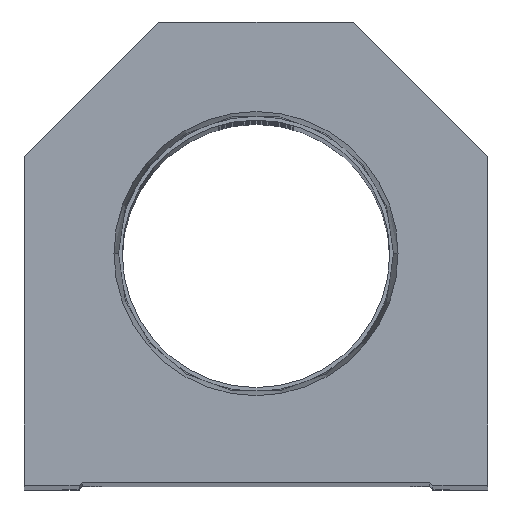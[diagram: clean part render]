
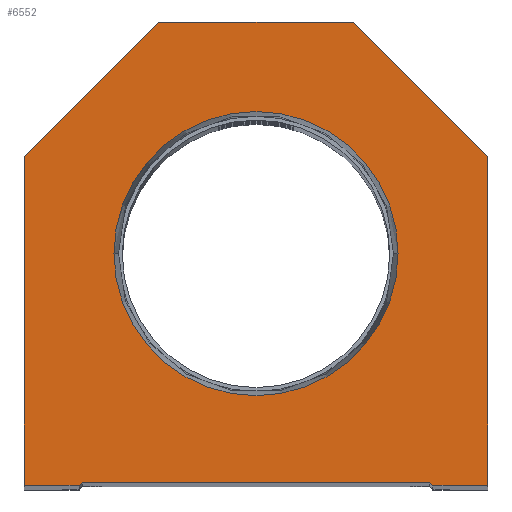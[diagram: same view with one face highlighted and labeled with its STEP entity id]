
A CAD part, top view. The second image highlights one B-rep face of the part: STEP entity #6552.
In plain terms, the highlighted planar face has unit normal (0, 0, 1).
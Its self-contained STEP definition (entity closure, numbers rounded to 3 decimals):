
#79 = EDGE_CURVE ( 'NONE', #3396, #2825, #9376, .T. ) ;
#221 = CARTESIAN_POINT ( 'NONE',  ( 16., 76.2, 0. ) ) ;
#261 = CARTESIAN_POINT ( 'NONE',  ( -28.6, 0.5, 0. ) ) ;
#264 = DIRECTION ( 'NONE',  ( 0., 1., 0. ) ) ;
#312 = DIRECTION ( 'NONE',  ( 0.707, -0.707, 0. ) ) ;
#706 = DIRECTION ( 'NONE',  ( 0., 0., 1. ) ) ;
#980 = VECTOR ( 'NONE', #10000, 1000. ) ;
#993 = LINE ( 'NONE', #3267, #13588 ) ;
#1274 = CARTESIAN_POINT ( 'NONE',  ( 38.1, 0., 0. ) ) ;
#1313 = VECTOR ( 'NONE', #16345, 1000. ) ;
#1403 = VECTOR ( 'NONE', #2230, 1000. ) ;
#1515 = CARTESIAN_POINT ( 'NONE',  ( 14.55, 14.55, 0. ) ) ;
#1667 = VECTOR ( 'NONE', #8024, 1000. ) ;
#1971 = CARTESIAN_POINT ( 'NONE',  ( -23.374, 38.1, 0. ) ) ;
#2105 = ORIENTED_EDGE ( 'NONE', *, *, #8599, .T. ) ;
#2230 = DIRECTION ( 'NONE',  ( 1., 0., 0. ) ) ;
#2252 = CARTESIAN_POINT ( 'NONE',  ( -38.1, 0., 0. ) ) ;
#2315 = VECTOR ( 'NONE', #312, 1000. ) ;
#2321 = CIRCLE ( 'NONE', #8839, 23.374 ) ;
#2506 = CARTESIAN_POINT ( 'NONE',  ( -14.55, 14.55, 0. ) ) ;
#2508 = DIRECTION ( 'NONE',  ( 0., 0., 1. ) ) ;
#2592 = EDGE_CURVE ( 'NONE', #16470, #3396, #15857, .T. ) ;
#2644 = DIRECTION ( 'NONE',  ( -0.707, -0.707, 0. ) ) ;
#2815 = CARTESIAN_POINT ( 'NONE',  ( -38.1, 54.1, 0. ) ) ;
#2825 = VERTEX_POINT ( 'NONE', #12220 ) ;
#2851 = EDGE_CURVE ( 'NONE', #16234, #8787, #15833, .T. ) ;
#2903 = ORIENTED_EDGE ( 'NONE', *, *, #9955, .T. ) ;
#3052 = CARTESIAN_POINT ( 'NONE',  ( 0., 38.1, 0. ) ) ;
#3107 = EDGE_CURVE ( 'NONE', #7142, #16234, #12624, .T. ) ;
#3215 = CARTESIAN_POINT ( 'NONE',  ( 16., 76.2, 0. ) ) ;
#3267 = CARTESIAN_POINT ( 'NONE',  ( 38.1, 54.1, 0. ) ) ;
#3396 = VERTEX_POINT ( 'NONE', #7117 ) ;
#3442 = DIRECTION ( 'NONE',  ( -0.707, 0.707, 0. ) ) ;
#3964 = ORIENTED_EDGE ( 'NONE', *, *, #79, .T. ) ;
#3981 = ORIENTED_EDGE ( 'NONE', *, *, #2592, .T. ) ;
#4141 = EDGE_CURVE ( 'NONE', #4899, #5385, #2321, .T. ) ;
#4550 = AXIS2_PLACEMENT_3D ( 'NONE', #8988, #2508, #11788 ) ;
#4691 = VECTOR ( 'NONE', #11805, 1000. ) ;
#4899 = VERTEX_POINT ( 'NONE', #1971 ) ;
#4960 = CARTESIAN_POINT ( 'NONE',  ( -28.6, 0., 0. ) ) ;
#5129 = ORIENTED_EDGE ( 'NONE', *, *, #6117, .F. ) ;
#5385 = VERTEX_POINT ( 'NONE', #5870 ) ;
#5458 = CARTESIAN_POINT ( 'NONE',  ( 28.6, 0.5, 0. ) ) ;
#5672 = EDGE_CURVE ( 'NONE', #2825, #16817, #11114, .T. ) ;
#5870 = CARTESIAN_POINT ( 'NONE',  ( 23.374, 38.1, 0. ) ) ;
#6117 = EDGE_CURVE ( 'NONE', #5385, #4899, #6981, .T. ) ;
#6401 = ORIENTED_EDGE ( 'NONE', *, *, #3107, .T. ) ;
#6456 = CARTESIAN_POINT ( 'NONE',  ( 28.6, 0., 0. ) ) ;
#6540 = ORIENTED_EDGE ( 'NONE', *, *, #7450, .T. ) ;
#6552 = ADVANCED_FACE ( 'NONE', ( #13637, #16568 ), #11157, .T. ) ;
#6785 = DIRECTION ( 'NONE',  ( -1., 0., 0. ) ) ;
#6981 = CIRCLE ( 'NONE', #4550, 23.374 ) ;
#7117 = CARTESIAN_POINT ( 'NONE',  ( -16., 76.2, 0. ) ) ;
#7142 = VERTEX_POINT ( 'NONE', #261 ) ;
#7268 = VERTEX_POINT ( 'NONE', #11797 ) ;
#7444 = CARTESIAN_POINT ( 'NONE',  ( -28.6, 0.5, 0. ) ) ;
#7450 = EDGE_CURVE ( 'NONE', #7268, #16470, #993, .T. ) ;
#7576 = AXIS2_PLACEMENT_3D ( 'NONE', #11414, #706, #10145 ) ;
#8024 = DIRECTION ( 'NONE',  ( 0.707, 0.707, 0. ) ) ;
#8093 = EDGE_LOOP ( 'NONE', ( #5129, #14618 ) ) ;
#8599 = EDGE_CURVE ( 'NONE', #10005, #7142, #15562, .T. ) ;
#8787 = VERTEX_POINT ( 'NONE', #14684 ) ;
#8839 = AXIS2_PLACEMENT_3D ( 'NONE', #3052, #12081, #9792 ) ;
#8988 = CARTESIAN_POINT ( 'NONE',  ( 0., 38.1, 0. ) ) ;
#9259 = CARTESIAN_POINT ( 'NONE',  ( -29.1, 0., 0. ) ) ;
#9376 = LINE ( 'NONE', #2815, #9576 ) ;
#9576 = VECTOR ( 'NONE', #2644, 1000. ) ;
#9792 = DIRECTION ( 'NONE',  ( 1., 0., 0. ) ) ;
#9955 = EDGE_CURVE ( 'NONE', #16817, #10005, #11262, .T. ) ;
#10000 = DIRECTION ( 'NONE',  ( 1., 0., 0. ) ) ;
#10005 = VERTEX_POINT ( 'NONE', #9259 ) ;
#10145 = DIRECTION ( 'NONE',  ( 1., 0., 0. ) ) ;
#10991 = ORIENTED_EDGE ( 'NONE', *, *, #16229, .T. ) ;
#11114 = LINE ( 'NONE', #16267, #1313 ) ;
#11157 = PLANE ( 'NONE',  #7576 ) ;
#11262 = LINE ( 'NONE', #4960, #1403 ) ;
#11414 = CARTESIAN_POINT ( 'NONE',  ( 0., 0., 0. ) ) ;
#11788 = DIRECTION ( 'NONE',  ( 1., 0., 0. ) ) ;
#11797 = CARTESIAN_POINT ( 'NONE',  ( 38.1, 54.1, 0. ) ) ;
#11805 = DIRECTION ( 'NONE',  ( 1., 0., 0. ) ) ;
#11810 = VECTOR ( 'NONE', #6785, 1000. ) ;
#12081 = DIRECTION ( 'NONE',  ( 0., 0., 1. ) ) ;
#12179 = LINE ( 'NONE', #16225, #15874 ) ;
#12220 = CARTESIAN_POINT ( 'NONE',  ( -38.1, 54.1, 0. ) ) ;
#12624 = LINE ( 'NONE', #7444, #980 ) ;
#13114 = VERTEX_POINT ( 'NONE', #1274 ) ;
#13588 = VECTOR ( 'NONE', #3442, 1000. ) ;
#13637 = FACE_BOUND ( 'NONE', #8093, .T. ) ;
#13897 = ORIENTED_EDGE ( 'NONE', *, *, #5672, .T. ) ;
#14506 = EDGE_LOOP ( 'NONE', ( #2903, #2105, #6401, #14589, #15137, #10991, #6540, #3981, #3964, #13897 ) ) ;
#14589 = ORIENTED_EDGE ( 'NONE', *, *, #2851, .T. ) ;
#14618 = ORIENTED_EDGE ( 'NONE', *, *, #4141, .F. ) ;
#14684 = CARTESIAN_POINT ( 'NONE',  ( 29.1, 0., 0. ) ) ;
#15137 = ORIENTED_EDGE ( 'NONE', *, *, #15518, .T. ) ;
#15518 = EDGE_CURVE ( 'NONE', #8787, #13114, #15590, .T. ) ;
#15562 = LINE ( 'NONE', #2506, #1667 ) ;
#15590 = LINE ( 'NONE', #6456, #4691 ) ;
#15833 = LINE ( 'NONE', #1515, #2315 ) ;
#15857 = LINE ( 'NONE', #3215, #11810 ) ;
#15874 = VECTOR ( 'NONE', #264, 1000. ) ;
#16225 = CARTESIAN_POINT ( 'NONE',  ( 38.1, 0., 0. ) ) ;
#16229 = EDGE_CURVE ( 'NONE', #13114, #7268, #12179, .T. ) ;
#16234 = VERTEX_POINT ( 'NONE', #5458 ) ;
#16267 = CARTESIAN_POINT ( 'NONE',  ( -38.1, 0., 0. ) ) ;
#16345 = DIRECTION ( 'NONE',  ( 0., -1., 0. ) ) ;
#16470 = VERTEX_POINT ( 'NONE', #221 ) ;
#16568 = FACE_OUTER_BOUND ( 'NONE', #14506, .T. ) ;
#16817 = VERTEX_POINT ( 'NONE', #2252 ) ;
